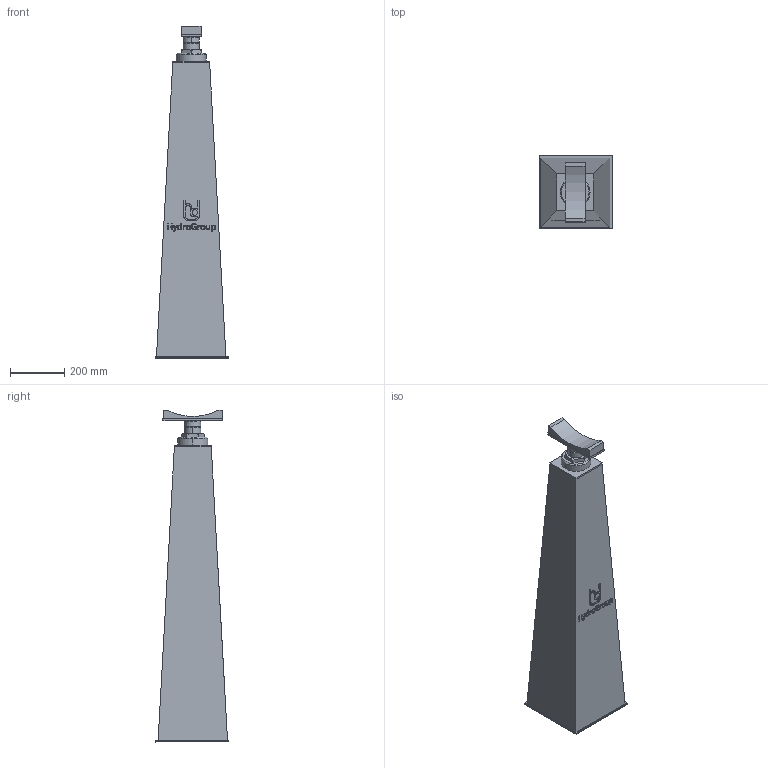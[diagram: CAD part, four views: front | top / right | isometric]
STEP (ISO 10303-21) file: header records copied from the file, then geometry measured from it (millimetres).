
FILE_DESCRIPTION(('STEP AP214'),'1');
FILE_NAME('RSRFE-IV_DN400.stp','2018-06-29T09:09:38',(' '),(' '),'Spatial InterOp 3D',' ',' ');
FILE_SCHEMA(('automotive_design'));
Length unit declared in the file: millimetre
Products named in the file (6): 1; 2; 3; 4; 5; 6
Bounding box: 270 x 270 x 1224.3 mm (x, y, z)
Volume: 44912522.9 mm3; surface area: 1278651.1 mm2
Topology: 6 solids, 6 shells, 222 faces, 548 edges, 357 vertices
Faces by surface type: plane 144, cylinder 30, extrusion 24, cone 20, torus 4
Entity records: 8944 total; most frequent: CARTESIAN_POINT 1807, ORIENTED_EDGE 1096, DIRECTION 1011, EDGE_CURVE 548, VECTOR 421, LINE 397, VERTEX_POINT 357, AXIS2_PLACEMENT_3D 295
